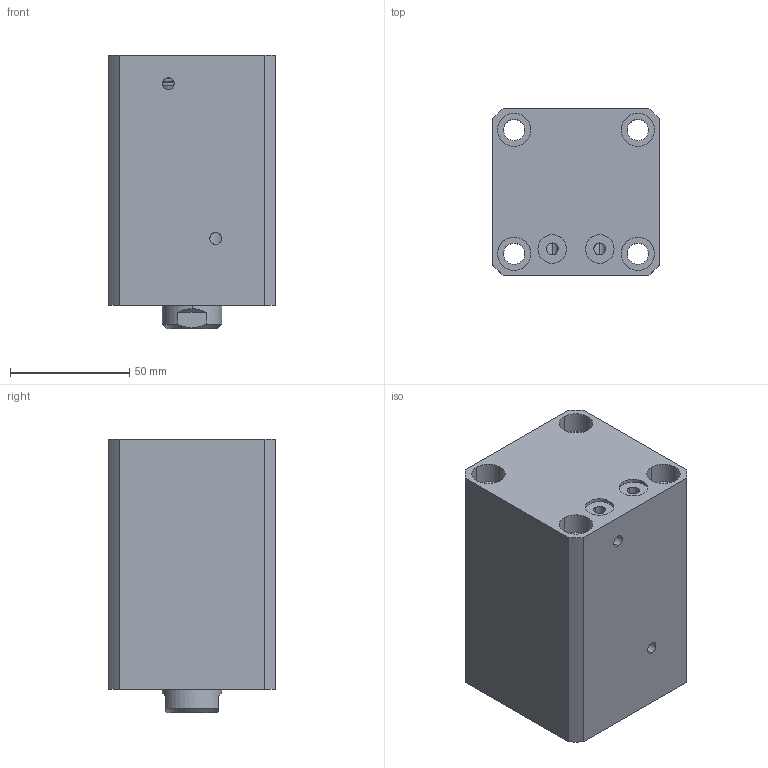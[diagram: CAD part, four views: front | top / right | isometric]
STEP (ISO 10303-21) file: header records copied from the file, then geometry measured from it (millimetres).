
FILE_DESCRIPTION (( 'STEP AP214' ), '1' );
FILE_NAME ('chtb-sdmb40x50n_asm.STEP', '2018-06-07T05:48:49', ( 'Windows' ), ( 'Microsoft' ), 'SwSTEP 2.0', 'SolidWorks 2015', '' );
FILE_SCHEMA (( 'AUTOMOTIVE_DESIGN' ));
Length unit declared in the file: millimetre
Products named in the file (4): chtb-sdmb40x50n_asm; CHTB-SDMB40X50NBT; CHTB-SD40X50NHSG; CHTB-SD40QG
Assembly tree (3 placements, depth 2):
  chtb-sdmb40x50n_asm
    CHTB-SD40QG
    CHTB-SD40X50NHSG
    CHTB-SDMB40X50NBT
Bounding box: 70 x 70 x 115 mm (x, y, z)
Volume: 431620.3 mm3; surface area: 89547.2 mm2
Topology: 3 solids, 3 shells, 155 faces, 407 edges, 270 vertices
Faces by surface type: cylinder 84, plane 34, bspline 14, torus 14, cone 9
Entity records: 10007 total; most frequent: CARTESIAN_POINT 6085, ORIENTED_EDGE 802, DIRECTION 758, EDGE_CURVE 401, AXIS2_PLACEMENT_3D 322, VERTEX_POINT 270, EDGE_LOOP 191, CIRCLE 175
